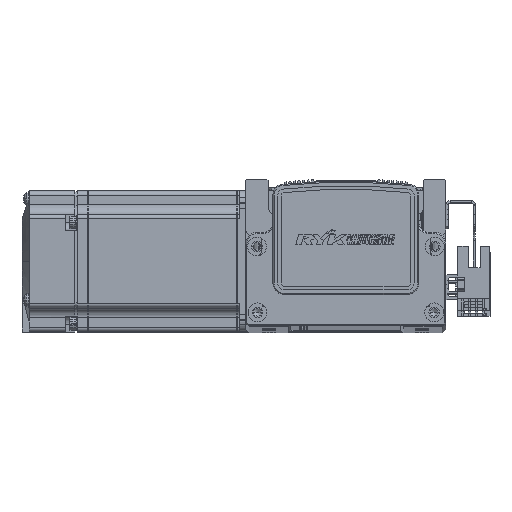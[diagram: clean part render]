
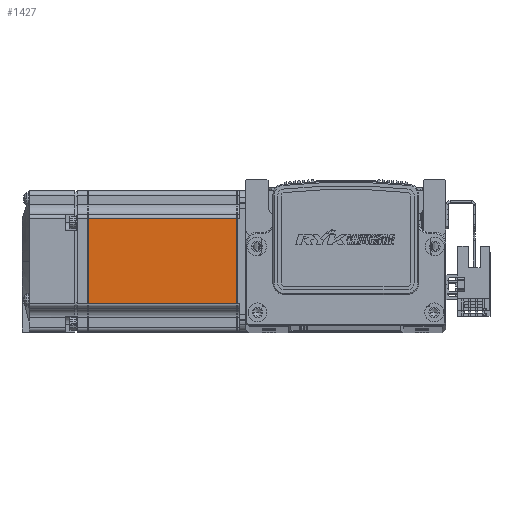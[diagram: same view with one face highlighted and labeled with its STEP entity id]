
A CAD part, top view. The second image highlights one B-rep face of the part: STEP entity #1427.
In plain terms, the highlighted planar face has unit normal (0, 0, 1) as drawn and (0, 0, -1) by its records, which use the part's own axes.
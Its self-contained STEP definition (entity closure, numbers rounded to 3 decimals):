
#1427 = ADVANCED_FACE ( 'NONE', ( #15913 ), #9045, .T. ) ;
#3804 = ORIENTED_EDGE ( 'NONE', *, *, #57040, .T. ) ;
#3812 = ORIENTED_EDGE ( 'NONE', *, *, #57058, .T. ) ;
#3835 = ORIENTED_EDGE ( 'NONE', *, *, #56985, .T. ) ;
#3897 = ORIENTED_EDGE ( 'NONE', *, *, #57025, .T. ) ;
#9028 = DIRECTION ( 'NONE',  ( 0., 0., -1. ) ) ;
#9041 = DIRECTION ( 'NONE',  ( -1., 0., 0. ) ) ;
#9045 = PLANE ( 'NONE',  #43073 ) ;
#9062 = CARTESIAN_POINT ( 'NONE',  ( -6.5, 25., -30. ) ) ;
#12717 = VERTEX_POINT ( 'NONE', #78711 ) ;
#12821 = VERTEX_POINT ( 'NONE', #78745 ) ;
#12824 = VERTEX_POINT ( 'NONE', #78766 ) ;
#12834 = VERTEX_POINT ( 'NONE', #78767 ) ;
#15913 = FACE_OUTER_BOUND ( 'NONE', #45787, .T. ) ;
#43073 = AXIS2_PLACEMENT_3D ( 'NONE', #9062, #9028, #9041 ) ;
#45787 = EDGE_LOOP ( 'NONE', ( #3812, #3804, #3835, #3897 ) ) ;
#49158 = LINE ( 'NONE', #62256, #49246 ) ;
#49246 = VECTOR ( 'NONE', #62231, 1000. ) ;
#49274 = LINE ( 'NONE', #62460, #49350 ) ;
#49300 = LINE ( 'NONE', #62511, #49342 ) ;
#49342 = VECTOR ( 'NONE', #62512, 1000. ) ;
#49350 = VECTOR ( 'NONE', #62487, 1000. ) ;
#49517 = LINE ( 'NONE', #62556, #49533 ) ;
#49533 = VECTOR ( 'NONE', #62549, 1000. ) ;
#56985 = EDGE_CURVE ( 'NONE', #12821, #12824, #49158, .T. ) ;
#57025 = EDGE_CURVE ( 'NONE', #12824, #12834, #49274, .T. ) ;
#57040 = EDGE_CURVE ( 'NONE', #12717, #12821, #49300, .T. ) ;
#57058 = EDGE_CURVE ( 'NONE', #12834, #12717, #49517, .T. ) ;
#62231 = DIRECTION ( 'NONE',  ( 0., 1., 0. ) ) ;
#62256 = CARTESIAN_POINT ( 'NONE',  ( -70.95, 25., -30. ) ) ;
#62460 = CARTESIAN_POINT ( 'NONE',  ( -6.5, 18., -30. ) ) ;
#62487 = DIRECTION ( 'NONE',  ( 1., 0., 0. ) ) ;
#62511 = CARTESIAN_POINT ( 'NONE',  ( -6.5, -18., -30. ) ) ;
#62512 = DIRECTION ( 'NONE',  ( -1., 0., 0. ) ) ;
#62549 = DIRECTION ( 'NONE',  ( 0., -1., 0. ) ) ;
#62556 = CARTESIAN_POINT ( 'NONE',  ( -7.75, 25., -30. ) ) ;
#78711 = CARTESIAN_POINT ( 'NONE',  ( -7.75, -18., -30. ) ) ;
#78745 = CARTESIAN_POINT ( 'NONE',  ( -70.95, -18., -30. ) ) ;
#78766 = CARTESIAN_POINT ( 'NONE',  ( -70.95, 18., -30. ) ) ;
#78767 = CARTESIAN_POINT ( 'NONE',  ( -7.75, 18., -30. ) ) ;
